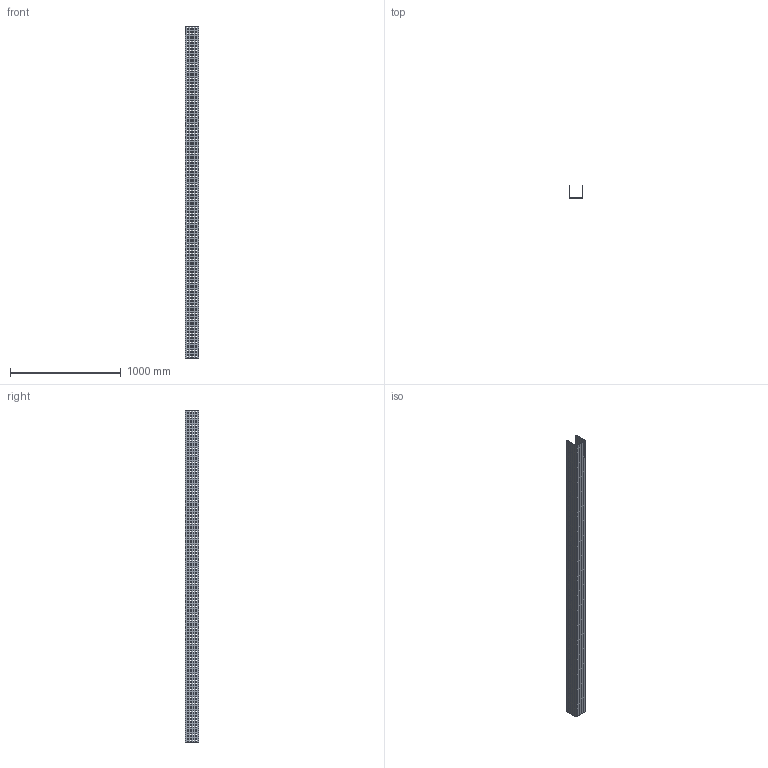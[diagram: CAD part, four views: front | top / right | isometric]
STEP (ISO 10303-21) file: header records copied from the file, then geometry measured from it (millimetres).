
FILE_DESCRIPTION (( 'STEP AP214' ), '1' );
FILE_NAME ('01B3J117.step', '2025-02-21T10:04:32', ( '' ), ( '' ), 'SwSTEP 2.0', 'SolidWorks 2023', '' );
FILE_SCHEMA (( 'AUTOMOTIVE_DESIGN' ));
Length unit declared in the file: millimetre
Products named in the file (1): 01B3J117
Bounding box: 117.5 x 117.5 x 3000 mm (x, y, z)
Volume: 3098550 mm3; surface area: 1987554.5 mm2
Topology: 1 solids, 1 shells, 3466 faces, 10392 edges, 6928 vertices
Faces by surface type: plane 3466
Entity records: 117815 total; most frequent: CARTESIAN_POINT 20787, ORIENTED_EDGE 20784, DIRECTION 17326, EDGE_CURVE 10392, VECTOR 10392, LINE 10392, VERTEX_POINT 6928, EDGE_LOOP 5194
